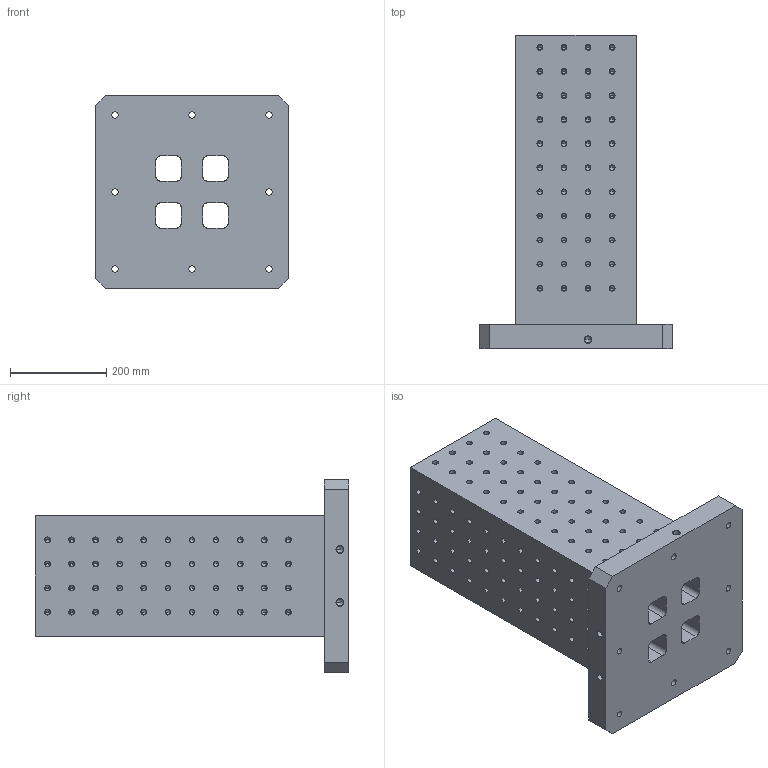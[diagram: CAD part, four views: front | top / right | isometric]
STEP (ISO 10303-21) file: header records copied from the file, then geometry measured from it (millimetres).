
FILE_DESCRIPTION((''),'2;1');
FILE_NAME('FG_WH_TOMB_SQG16NP003','2026-05-19T14:56:06',('Admin'),(''),'CREO PARAMETRIC BY PTC INC, 2025010','CREO PARAMETRIC BY PTC INC, 2025010','');
FILE_SCHEMA(('CONFIG_CONTROL_DESIGN'));
Length unit declared in the file: millimetre
Products named in the file (1): FG_WH_TOMB_SQG16NP003
Bounding box: 400 x 650 x 400 mm (x, y, z)
Volume: 28677162.4 mm3; surface area: 1891714.9 mm2
Topology: 1 solids, 181 shells, 1934 faces, 4864 edges, 3123 vertices
Faces by surface type: cylinder 1136, plane 440, cone 358
Entity records: 56577 total; most frequent: DIRECTION 11184, CARTESIAN_POINT 9564, ORIENTED_EDGE 8116, AXIS2_PLACEMENT_3D 4743, EDGE_CURVE 4506, VERTEX_POINT 3123, CIRCLE 2808, EDGE_LOOP 2519
